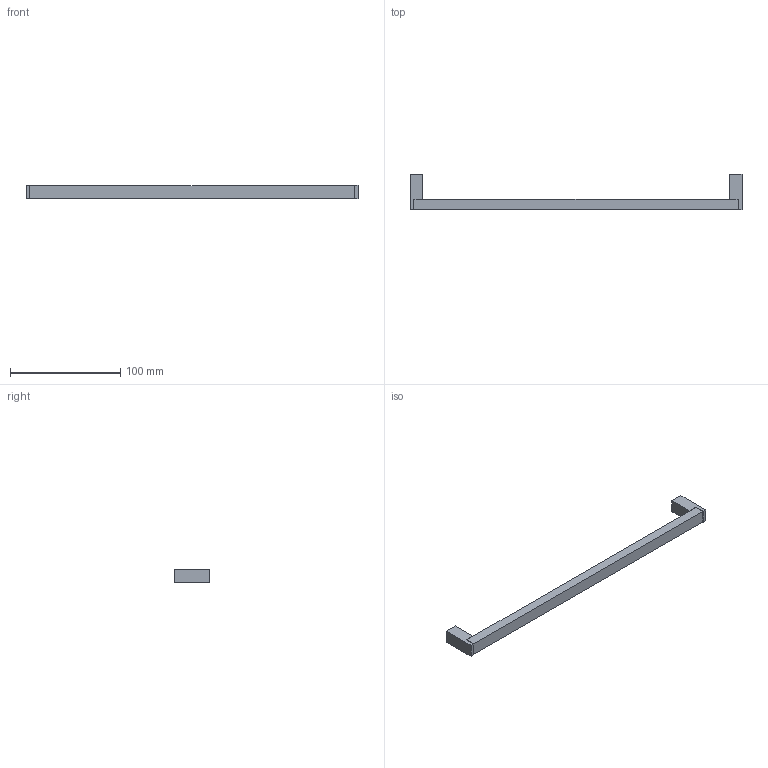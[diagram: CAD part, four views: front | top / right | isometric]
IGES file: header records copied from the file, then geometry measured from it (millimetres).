
Start section: Data from Parasolid IGES Translator 15.0.47, Copyright(c) 2006 Siemens P LM Software. All Rights Reserved.
Global section: file name: 9208079.igs; native system:  By UGS Corp.; preprocessor: XPlus GENERIC/IGES 3.0; author: Noname; organization: Noname; date: 20151216.173512; units: millimetre
Bounding box: 301 x 32 x 12.15 mm (x, y, z)
Surface area: 15297.4 mm2 (no closed solid volume)
Topology: 0 solids, 0 shells, 26 faces, 124 edges, 122 vertices
Faces by surface type: extrusion 24, revolution 2
